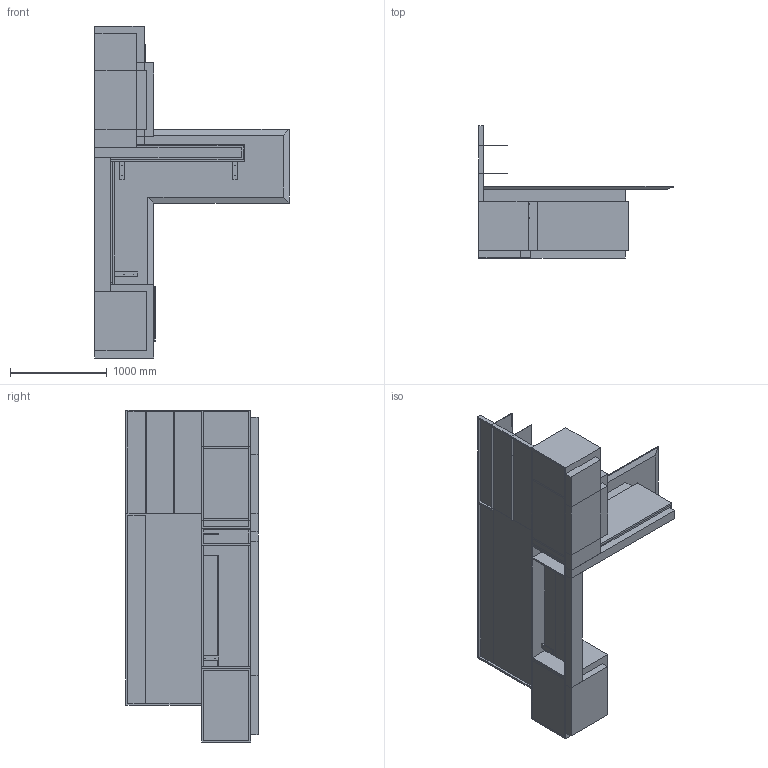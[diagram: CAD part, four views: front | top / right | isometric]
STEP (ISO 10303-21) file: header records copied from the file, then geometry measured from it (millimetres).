
FILE_DESCRIPTION(/* description */ ('','CAx-IF Rec.Pracs.---Representation and Presentation of Product Manufacturing Information (PMI)---4.0---2014-10-13'),/* implementation_level */ '2;1');
FILE_NAME(/* name */ 'PRIVATE OFFICE_ELEVATE 3.stp',/* time_stamp */ '2024-12-08T11:03:30-05:00',/* author */ ('mbowman'),/* organization */ (''),/* preprocessor_version */ 'ST-DEVELOPER v19.2',/* originating_system */ 'Autodesk Inventor 2023',/* authorisation */ '');
FILE_SCHEMA (('AP242_MANAGED_MODEL_BASED_3D_ENGINEERING_MIM_LF { 1 0 10303 442 1 1 4 }'));
Length unit declared in the file: inch
Products named in the file (11): CCN^APOGEE_LAYOUT 3 RIGHT; CCN^APOGEE_L3 KNEE WALL-FIXED TOP SOLID; CCN^APOGEE_L3 WORKSURFACE-77x78 SOLID; CCN^APOGEE_L3 30 LAT BF PED PULL LT (24 DEEP)-PARTS SOLID; CCN^APOGEE_L3 30 SHELF STORAGE (20 DEEP)-PARTS SOLID; CCN^APOGEE_L3 WALL HUNG-42 METAL SHELVES PARTS SOLID; CCN^APOGEE_L3 WALL HUNG-120 WOOD CAP PARTS SOLID; CCN^APOGEE_L3 WALL HUNG-78 TACK PARTS SOLID; JW PULL-11_125^STANDARD; JW PULL-22_25_STANDARD; CCN^CANTILEVER BRACKET_.5x12x12
Assembly tree (15 placements, depth 2):
  CCN^APOGEE_LAYOUT 3 RIGHT
    CCN^APOGEE_L3 KNEE WALL-FIXED TOP SOLID
    CCN^APOGEE_L3 WORKSURFACE-77x78 SOLID
    CCN^APOGEE_L3 30 LAT BF PED PULL LT (24 DEEP)-PARTS SOLID
    CCN^APOGEE_L3 30 SHELF STORAGE (20 DEEP)-PARTS SOLID
    CCN^APOGEE_L3 WALL HUNG-42 METAL SHELVES PARTS SOLID
    CCN^APOGEE_L3 WALL HUNG-120 WOOD CAP PARTS SOLID
    CCN^APOGEE_L3 WALL HUNG-78 TACK PARTS SOLID
    JW PULL-11_125^STANDARD
    JW PULL-22_25_STANDARD  x4
    CCN^CANTILEVER BRACKET_.5x12x12  x3
Bounding box: 2006.6 x 1365.25 x 3429 mm (x, y, z)
Volume: 445479300.9 mm3; surface area: 40102019.6 mm2
Topology: 65 solids, 65 shells, 536 faces, 1254 edges, 834 vertices
Faces by surface type: plane 493, cylinder 29, cone 14
Full cylindrical faces by diameter (mm): 7.938 x18
Entity records: 14661 total; most frequent: CARTESIAN_POINT 3060, DIRECTION 2009, ORIENTED_EDGE 1890, EDGE_CURVE 945, LINE 885, VECTOR 885, STYLED_ITEM 668, VERTEX_POINT 628
